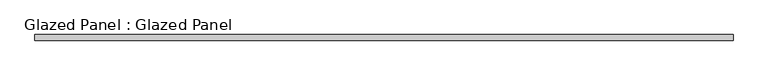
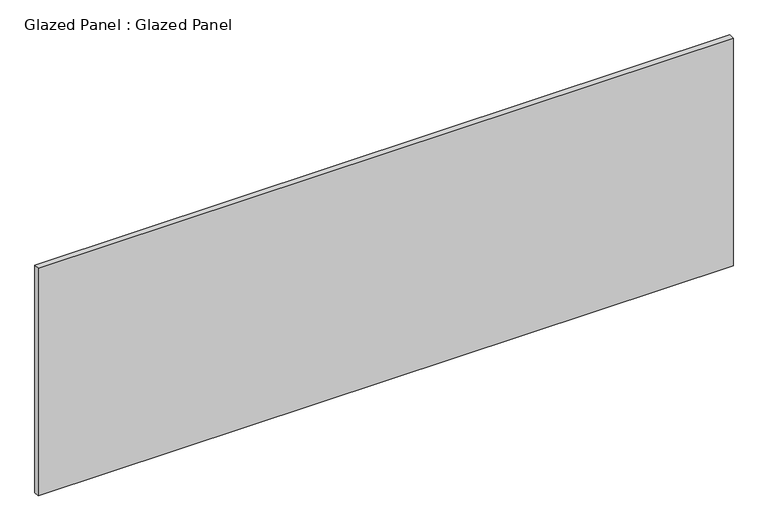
"""IFC4 building model written with IfcOpenShell, lengths in millimetres: plate geometry, Glazed Panel : Glazed Panel."""

from ifc_helpers import new_model, si_unit, origin, origin_with_axes, place, context, project, spatial, polyline, outline, extrude, source, transform, mapped, element, save


def glazed_panel_glazed_panel_d60c81f7(model_context):
    return source(origin(), model_context, "Body", "SweptSolid", [
        extrude(outline(polyline([(1577.998125, -38.1), (1577.998125, -63.5), (-1577.998125, -63.5), (-1577.998125, -38.1), (1577.998125, -38.1)])), origin_with_axes(), (0.0, 0.0, 1.0), 1092.2),
    ])


if __name__ == "__main__":
    model = new_model("IFC4")
    model_context = context("Model", 3, world=origin())
    ifc_project = project(units=[si_unit("LENGTHUNIT", "METRE", prefix="MILLI")], contexts=[model_context])
    site = spatial("IfcSite", under=ifc_project)
    building = spatial("IfcBuilding", under=site)
    placement = place(None, origin())
    glazed_panel_glazed_panel_shape = glazed_panel_glazed_panel_d60c81f7(model_context)
    element("IfcPlate", 1, ObjectType="Glazed Panel : Glazed Panel", at=placement, inside=building, context=model_context, shape_type="MappedRepresentation", body=[
        mapped(glazed_panel_glazed_panel_shape, transform((0.0, 0.0, 0.0), x_axis=(1.0, 0.0, 0.0), y_axis=(0.0, 1.0, 0.0), z_axis=(0.0, 0.0, 1.0))),
    ])
    save(model, "model.ifc")
